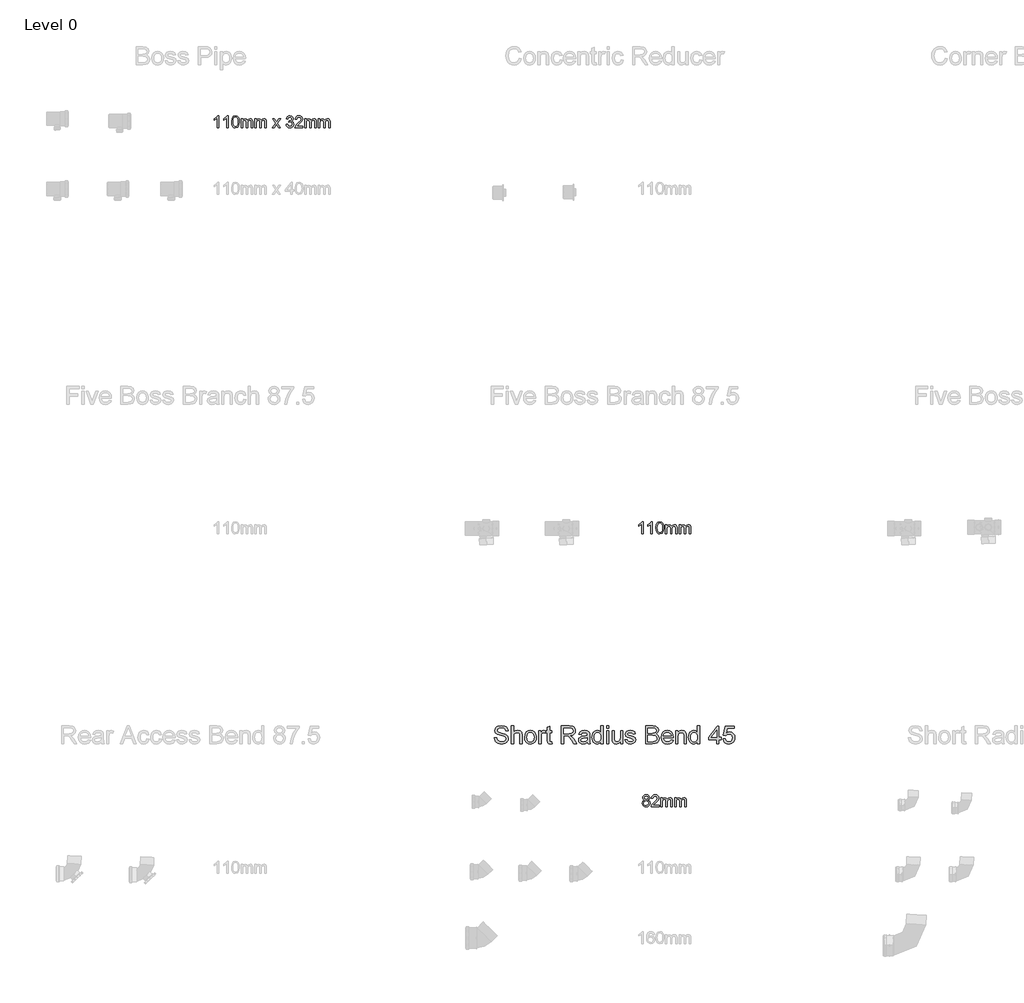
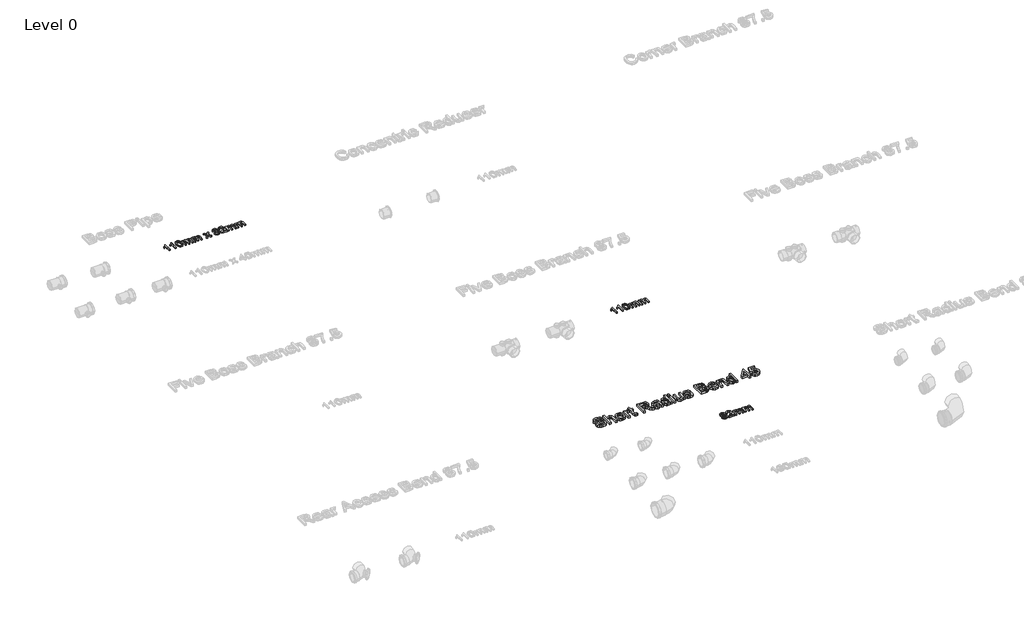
# One storey, part 14 of 23: 4 proxies.
"""IFC4 building model written with IfcOpenShell, lengths in millimetres."""

from ifc_helpers import new_model, si_unit, origin, origin_with_axes, place, context, project, spatial, polyline, outline, extrude, element, save

model = new_model("IFC4")

# Units and contexts
model_context = context("Model", 3, world=origin())
ifc_project = project(units=[si_unit("LENGTHUNIT", "METRE", prefix="MILLI")], contexts=[model_context])

# Site, building, storey
site = spatial("IfcSite", under=ifc_project)
building = spatial("IfcBuilding", under=site)
storey = spatial("IfcBuildingStorey", under=building, Name="Level 0", Elevation=0.0)

# Proxies
placement = place(None, origin())
element("IfcBuildingElementProxy", 1, Name="100mm Arial", ObjectType="100mm Arial", at=placement, inside=storey, context=model_context, shape_type="SweptSolid", body=[
    extrude(outline(polyline([(-10291.7293188, 5986.6504048), (-10304.0370111, 5986.6504048), (-10304.0370111, 6063.381174), (-10315.6956649, 6055.0758856), (-10328.6523957, 6048.8619433), (-10328.6523957, 6060.4965587), (-10310.6115303, 6072.0109817), (-10299.6620111, 6085.1119433), (-10291.7293188, 6085.1119433), (-10291.7293188, 5986.6504048)])), origin_with_axes(), (0.0, 0.0, 1.0), 15.0),
    extrude(outline(polyline([(-10216.3447034, 5986.6504048), (-10228.6523957, 5986.6504048), (-10228.6523957, 6063.381174), (-10240.3110495, 6055.0758856), (-10253.2677803, 6048.8619433), (-10253.2677803, 6060.4965587), (-10235.2269149, 6072.0109817), (-10224.2773957, 6085.1119433), (-10216.3447034, 6085.1119433), (-10216.3447034, 5986.6504048)])), origin_with_axes(), (0.0, 0.0, 1.0), 15.0),
    extrude(outline(polyline([(-10187.1139341, 6035.0879048), (-10183.4961457, 6063.4172317), (-10172.7509534, 6079.7513663), (-10154.8062418, 6085.1119433), (-10140.4312418, 6081.9388663), (-10130.5033572, 6072.7922317), (-10124.7341264, 6058.224924), (-10122.4985495, 6035.0879048), (-10126.0802803, 6006.8787702), (-10136.7894149, 5990.5085779), (-10154.8062418, 5985.1119433), (-10167.5947034, 5987.4556933), (-10177.3062418, 5994.4869433), (-10184.6620111, 6011.1395875), (-10187.1139341, 6035.0879048)]), holes=[polyline([(-10174.8062418, 6035.1119433), (-10173.3639341, 6015.7519673), (-10169.0370111, 6004.5470394), (-10162.5947034, 5999.2014865), (-10154.8062418, 5997.4196356), (-10147.0177803, 5999.2074962), (-10140.5754726, 6004.5710779), (-10136.2485495, 6015.7820154), (-10134.8062418, 6035.1119433), (-10136.2004726, 6054.0362221), (-10140.3831649, 6065.3282894), (-10146.8134534, 6070.9352606), (-10154.9504726, 6072.804251), (-10162.6547995, 6071.1576163), (-10168.8447034, 6066.2177125), (-10173.3158572, 6054.2225202), (-10174.8062418, 6035.1119433)])]), origin_with_axes(), (0.0, 0.0, 1.0), 15.0),
    extrude(outline(polyline([(-10108.6523957, 5986.6504048), (-10108.6523957, 6058.9580971), (-10096.3447034, 6058.9580971), (-10096.3447034, 6047.0590587), (-10087.8831649, 6056.8066548), (-10075.8398957, 6060.4965587), (-10063.5081649, 6056.7345394), (-10056.7293188, 6046.193674), (-10047.1259534, 6056.9208375), (-10034.9985495, 6060.4965587), (-10025.7467466, 6059.0091788), (-10018.9047995, 6054.5470394), (-10014.6770351, 6046.9899481), (-10013.2677803, 6036.2177125), (-10013.2677803, 5986.6504048), (-10025.5754726, 5986.6504048), (-10025.5754726, 6030.929251), (-10026.7172995, 6041.2056933), (-10030.8519149, 6046.2657894), (-10037.8831649, 6048.1888663), (-10049.9865303, 6043.2609817), (-10054.8062418, 6027.4677125), (-10054.8062418, 5986.6504048), (-10067.1139341, 5986.6504048), (-10067.1139341, 6032.2994433), (-10069.9624918, 6044.2225202), (-10079.3014341, 6048.1888663), (-10088.4120111, 6045.5446356), (-10094.4697034, 6037.804251), (-10096.3447034, 6023.116751), (-10096.3447034, 5986.6504048), (-10108.6523957, 5986.6504048)])), origin_with_axes(), (0.0, 0.0, 1.0), 15.0),
    extrude(outline(polyline([(-9994.8062418, 5986.6504048), (-9994.8062418, 6058.9580971), (-9982.4985495, 6058.9580971), (-9982.4985495, 6047.0590587), (-9974.0370111, 6056.8066548), (-9961.9937418, 6060.4965587), (-9949.6620111, 6056.7345394), (-9942.8831649, 6046.193674), (-9933.2797995, 6056.9208375), (-9921.1523957, 6060.4965587), (-9911.9005928, 6059.0091788), (-9905.0586457, 6054.5470394), (-9900.8308813, 6046.9899481), (-9899.4216264, 6036.2177125), (-9899.4216264, 5986.6504048), (-9911.7293188, 5986.6504048), (-9911.7293188, 6030.929251), (-9912.8711457, 6041.2056933), (-9917.0057611, 6046.2657894), (-9924.0370111, 6048.1888663), (-9936.1403764, 6043.2609817), (-9940.960088, 6027.4677125), (-9940.960088, 5986.6504048), (-9953.2677803, 5986.6504048), (-9953.2677803, 6032.2994433), (-9956.116338, 6044.2225202), (-9965.4552803, 6048.1888663), (-9974.5658572, 6045.5446356), (-9980.6235495, 6037.804251), (-9982.4985495, 6023.116751), (-9982.4985495, 5986.6504048), (-9994.8062418, 5986.6504048)])), origin_with_axes(), (0.0, 0.0, 1.0), 15.0),
    extrude(outline(polyline([(-9850.1908572, 5986.6504048), (-9823.8927803, 6022.9965587), (-9848.6523957, 6058.9580971), (-9833.8447034, 6058.9580971), (-9821.897588, 6041.6504048), (-9816.3206649, 6033.4773279), (-9811.4889341, 6040.1600202), (-9797.8831649, 6058.9580971), (-9783.0754726, 6058.9580971), (-9809.085088, 6022.9965587), (-9784.0370111, 5986.6504048), (-9798.8447034, 5986.6504048), (-9813.9168188, 6008.5013663), (-9816.6812418, 6012.491751), (-9835.3831649, 5986.6504048), (-9850.1908572, 5986.6504048)])), origin_with_axes(), (0.0, 0.0, 1.0), 15.0),
    extrude(outline(polyline([(-9737.8831649, 6012.804251), (-9725.5754726, 6014.3427125), (-9718.7846072, 6001.3859817), (-9706.0802803, 5997.4196356), (-9697.6427803, 5998.7838183), (-9691.1283572, 6002.8763663), (-9685.5754726, 6016.3859817), (-9691.0802803, 6029.1143471), (-9705.0706649, 6034.1504048), (-9713.7004726, 6032.804251), (-9712.3302803, 6045.1119433), (-9710.3591264, 6044.9677125), (-9696.3927803, 6048.5013663), (-9691.741338, 6052.9845394), (-9690.1908572, 6059.366751), (-9694.6860495, 6068.9941548), (-9706.272588, 6072.804251), (-9718.0033572, 6068.9580971), (-9724.0370111, 6057.4196356), (-9736.3447034, 6058.9580971), (-9732.7209053, 6070.0097798), (-9726.272588, 6078.2609817), (-9717.4504726, 6083.3992029), (-9706.7052803, 6085.1119433), (-9691.8615303, 6081.7345394), (-9681.4769149, 6072.5037702), (-9677.8831649, 6060.0879048), (-9681.2966264, 6048.741751), (-9691.3927803, 6040.5927125), (-9677.9793188, 6032.179251), (-9673.2677803, 6016.1696356), (-9675.6235495, 6004.1744433), (-9682.6908572, 5994.1504048), (-9693.3579245, 5987.3715587), (-9706.5129726, 5985.1119433), (-9718.4120111, 5987.0410298), (-9728.0995111, 5992.8282894), (-9734.8362899, 6001.6804529), (-9737.8831649, 6012.804251)])), origin_with_axes(), (0.0, 0.0, 1.0), 15.0),
    extrude(outline(polyline([(-9599.4216264, 5998.9580971), (-9599.4216264, 5986.6504048), (-9664.0370111, 5986.6504048), (-9662.7148957, 5995.1359817), (-9655.2389341, 6008.2008856), (-9639.8302803, 6022.4677125), (-9618.5802803, 6042.9725202), (-9613.2677803, 6056.9148279), (-9618.2797995, 6068.2008856), (-9631.3687418, 6072.804251), (-9645.0105688, 6068.3090587), (-9650.1908572, 6055.881174), (-9662.4985495, 6057.4196356), (-9659.5147755, 6069.3246837), (-9653.0634534, 6078.0205971), (-9643.4811216, 6083.3391067), (-9631.1043188, 6085.1119433), (-9618.6373716, 6083.1407894), (-9609.0730688, 6077.2273279), (-9602.9883332, 6068.3931933), (-9600.960088, 6057.6600202), (-9603.147588, 6045.9893471), (-9610.4192226, 6033.9220394), (-9628.0514341, 6017.0590587), (-9642.210088, 6005.2201163), (-9647.7629726, 5998.9580971), (-9599.4216264, 5998.9580971)])), origin_with_axes(), (0.0, 0.0, 1.0), 15.0),
    extrude(outline(polyline([(-9584.0370111, 5986.6504048), (-9584.0370111, 6058.9580971), (-9571.7293188, 6058.9580971), (-9571.7293188, 6047.0590587), (-9563.2677803, 6056.8066548), (-9551.2245111, 6060.4965587), (-9538.8927803, 6056.7345394), (-9532.1139341, 6046.193674), (-9522.5105688, 6056.9208375), (-9510.3831649, 6060.4965587), (-9501.131362, 6059.0091788), (-9494.2894149, 6054.5470394), (-9490.0616505, 6046.9899481), (-9488.6523957, 6036.2177125), (-9488.6523957, 5986.6504048), (-9500.960088, 5986.6504048), (-9500.960088, 6030.929251), (-9502.1019149, 6041.2056933), (-9506.2365303, 6046.2657894), (-9513.2677803, 6048.1888663), (-9525.3711457, 6043.2609817), (-9530.1908572, 6027.4677125), (-9530.1908572, 5986.6504048), (-9542.4985495, 5986.6504048), (-9542.4985495, 6032.2994433), (-9545.3471072, 6044.2225202), (-9554.6860495, 6048.1888663), (-9563.7966264, 6045.5446356), (-9569.8543188, 6037.804251), (-9571.7293188, 6023.116751), (-9571.7293188, 5986.6504048), (-9584.0370111, 5986.6504048)])), origin_with_axes(), (0.0, 0.0, 1.0), 15.0),
    extrude(outline(polyline([(-9470.1908572, 5986.6504048), (-9470.1908572, 6058.9580971), (-9457.8831649, 6058.9580971), (-9457.8831649, 6047.0590587), (-9449.4216264, 6056.8066548), (-9437.3783572, 6060.4965587), (-9425.0466264, 6056.7345394), (-9418.2677803, 6046.193674), (-9408.6644149, 6056.9208375), (-9396.5370111, 6060.4965587), (-9387.2852082, 6059.0091788), (-9380.4432611, 6054.5470394), (-9376.2154966, 6046.9899481), (-9374.8062418, 6036.2177125), (-9374.8062418, 5986.6504048), (-9387.1139341, 5986.6504048), (-9387.1139341, 6030.929251), (-9388.2557611, 6041.2056933), (-9392.3903764, 6046.2657894), (-9399.4216264, 6048.1888663), (-9411.5249918, 6043.2609817), (-9416.3447034, 6027.4677125), (-9416.3447034, 5986.6504048), (-9428.6523957, 5986.6504048), (-9428.6523957, 6032.2994433), (-9431.5009534, 6044.2225202), (-9440.8398957, 6048.1888663), (-9449.9504726, 6045.5446356), (-9456.0081649, 6037.804251), (-9457.8831649, 6023.116751), (-9457.8831649, 5986.6504048), (-9470.1908572, 5986.6504048)])), origin_with_axes(), (0.0, 0.0, 1.0), 15.0),
])
element("IfcBuildingElementProxy", 2, Name="100mm Arial", ObjectType="100mm Arial", at=placement, inside=storey, context=model_context, shape_type="SweptSolid", body=[
    extrude(outline(polyline([(-6791.7293188, 2637.7167304), (-6804.0370111, 2637.7167304), (-6804.0370111, 2714.4474996), (-6815.6956649, 2706.1422111), (-6828.6523957, 2699.9282688), (-6828.6523957, 2711.5628842), (-6810.6115303, 2723.0773073), (-6799.6620111, 2736.1782688), (-6791.7293188, 2736.1782688), (-6791.7293188, 2637.7167304)])), origin_with_axes(), (0.0, 0.0, 1.0), 15.0),
    extrude(outline(polyline([(-6716.3447034, 2637.7167304), (-6728.6523957, 2637.7167304), (-6728.6523957, 2714.4474996), (-6740.3110495, 2706.1422111), (-6753.2677803, 2699.9282688), (-6753.2677803, 2711.5628842), (-6735.2269149, 2723.0773073), (-6724.2773957, 2736.1782688), (-6716.3447034, 2736.1782688), (-6716.3447034, 2637.7167304)])), origin_with_axes(), (0.0, 0.0, 1.0), 15.0),
    extrude(outline(polyline([(-6687.1139341, 2686.1542304), (-6683.4961457, 2714.4835573), (-6672.7509534, 2730.8176919), (-6654.8062418, 2736.1782688), (-6640.4312418, 2733.0051919), (-6630.5033572, 2723.8585573), (-6624.7341264, 2709.2912496), (-6622.4985495, 2686.1542304), (-6626.0802803, 2657.9450958), (-6636.7894149, 2641.5749035), (-6654.8062418, 2636.1782688), (-6667.5947034, 2638.5220188), (-6677.3062418, 2645.5532688), (-6684.6620111, 2662.2059131), (-6687.1139341, 2686.1542304)]), holes=[polyline([(-6674.8062418, 2686.1782688), (-6673.3639341, 2666.8182929), (-6669.0370111, 2655.613365), (-6662.5947034, 2650.2678121), (-6654.8062418, 2648.4859611), (-6647.0177803, 2650.2738217), (-6640.5754726, 2655.6374035), (-6636.2485495, 2666.848341), (-6634.8062418, 2686.1782688), (-6636.2004726, 2705.1025477), (-6640.3831649, 2716.394615), (-6646.8134534, 2722.0015861), (-6654.9504726, 2723.8705765), (-6662.6547995, 2722.2239419), (-6668.8447034, 2717.2840381), (-6673.3158572, 2705.2888458), (-6674.8062418, 2686.1782688)])]), origin_with_axes(), (0.0, 0.0, 1.0), 15.0),
    extrude(outline(polyline([(-6608.6523957, 2637.7167304), (-6608.6523957, 2710.0244227), (-6596.3447034, 2710.0244227), (-6596.3447034, 2698.1253842), (-6587.8831649, 2707.8729804), (-6575.8398957, 2711.5628842), (-6563.5081649, 2707.800865), (-6556.7293188, 2697.2599996), (-6547.1259534, 2707.9871631), (-6534.9985495, 2711.5628842), (-6525.7467466, 2710.0755044), (-6518.9047995, 2705.613365), (-6514.6770351, 2698.0562736), (-6513.2677803, 2687.2840381), (-6513.2677803, 2637.7167304), (-6525.5754726, 2637.7167304), (-6525.5754726, 2681.9955765), (-6526.7172995, 2692.2720188), (-6530.8519149, 2697.332115), (-6537.8831649, 2699.2551919), (-6549.9865303, 2694.3273073), (-6554.8062418, 2678.5340381), (-6554.8062418, 2637.7167304), (-6567.1139341, 2637.7167304), (-6567.1139341, 2683.3657688), (-6569.9624918, 2695.2888458), (-6579.3014341, 2699.2551919), (-6588.4120111, 2696.6109611), (-6594.4697034, 2688.8705765), (-6596.3447034, 2674.1830765), (-6596.3447034, 2637.7167304), (-6608.6523957, 2637.7167304)])), origin_with_axes(), (0.0, 0.0, 1.0), 15.0),
    extrude(outline(polyline([(-6494.8062418, 2637.7167304), (-6494.8062418, 2710.0244227), (-6482.4985495, 2710.0244227), (-6482.4985495, 2698.1253842), (-6474.0370111, 2707.8729804), (-6461.9937418, 2711.5628842), (-6449.6620111, 2707.800865), (-6442.8831649, 2697.2599996), (-6433.2797995, 2707.9871631), (-6421.1523957, 2711.5628842), (-6411.9005928, 2710.0755044), (-6405.0586457, 2705.613365), (-6400.8308813, 2698.0562736), (-6399.4216264, 2687.2840381), (-6399.4216264, 2637.7167304), (-6411.7293188, 2637.7167304), (-6411.7293188, 2681.9955765), (-6412.8711457, 2692.2720188), (-6417.0057611, 2697.332115), (-6424.0370111, 2699.2551919), (-6436.1403764, 2694.3273073), (-6440.960088, 2678.5340381), (-6440.960088, 2637.7167304), (-6453.2677803, 2637.7167304), (-6453.2677803, 2683.3657688), (-6456.116338, 2695.2888458), (-6465.4552803, 2699.2551919), (-6474.5658572, 2696.6109611), (-6480.6235495, 2688.8705765), (-6482.4985495, 2674.1830765), (-6482.4985495, 2637.7167304), (-6494.8062418, 2637.7167304)])), origin_with_axes(), (0.0, 0.0, 1.0), 15.0),
])
element("IfcBuildingElementProxy", 3, Name="100mm Arial", ObjectType="100mm Arial", at=placement, inside=storey, context=model_context, shape_type="SweptSolid", body=[
    extrude(outline(polyline([(-6782.2581649, 440.881174), (-6793.4721072, 448.5254048), (-6797.1139341, 460.4244433), (-6795.1307611, 470.0458375), (-6789.1812418, 477.9965587), (-6779.9324438, 483.3330971), (-6768.0514341, 485.1119433), (-6756.0983091, 483.2910298), (-6746.7293188, 477.8282894), (-6740.6716264, 469.7513663), (-6738.6523957, 460.0879048), (-6742.2461457, 448.4893471), (-6753.147588, 440.881174), (-6740.0586457, 431.2297317), (-6735.5754726, 415.304251), (-6737.7990303, 403.537424), (-6744.4697034, 393.8138663), (-6754.7701841, 387.287424), (-6767.8831649, 385.1119433), (-6780.9961457, 387.2964385), (-6791.2966264, 393.849924), (-6797.9672995, 403.6666308), (-6800.1908572, 415.6407894), (-6795.5273957, 431.9388663), (-6782.2581649, 440.881174)]), holes=[polyline([(-6784.8062418, 460.0638663), (-6780.4432611, 450.4004048), (-6767.7389341, 446.6504048), (-6755.2870111, 450.3763663), (-6750.960088, 459.5109817), (-6755.4312418, 468.9701163), (-6767.8831649, 472.804251), (-6780.3711457, 469.054251), (-6784.8062418, 460.0638663)]), polyline([(-6787.8831649, 416.0734817), (-6785.8278764, 406.8066548), (-6778.5562418, 399.8715587), (-6767.7870111, 397.4196356), (-6753.1235495, 402.5758856), (-6747.8831649, 415.6888663), (-6753.2918188, 429.054251), (-6759.7221072, 433.0205971), (-6768.1956649, 434.3427125), (-6782.678838, 429.1263663), (-6787.8831649, 416.0734817)])]), origin_with_axes(), (0.0, 0.0, 1.0), 15.0),
    extrude(outline(polyline([(-6661.7293188, 398.9580971), (-6661.7293188, 386.6504048), (-6726.3447034, 386.6504048), (-6725.022588, 395.1359817), (-6717.5466264, 408.2008856), (-6702.1379726, 422.4677125), (-6680.8879726, 442.9725202), (-6675.5754726, 456.9148279), (-6680.5874918, 468.2008856), (-6693.6764341, 472.804251), (-6707.3182611, 468.3090587), (-6712.4985495, 455.881174), (-6724.8062418, 457.4196356), (-6721.8224678, 469.3246837), (-6715.3711457, 478.0205971), (-6705.7888139, 483.3391067), (-6693.4120111, 485.1119433), (-6680.9450639, 483.1407894), (-6671.3807611, 477.2273279), (-6665.2960255, 468.3931933), (-6663.2677803, 457.6600202), (-6665.4552803, 445.9893471), (-6672.7269149, 433.9220394), (-6690.3591264, 417.0590587), (-6704.5177803, 405.2201163), (-6710.0706649, 398.9580971), (-6661.7293188, 398.9580971)])), origin_with_axes(), (0.0, 0.0, 1.0), 15.0),
    extrude(outline(polyline([(-6646.3447034, 386.6504048), (-6646.3447034, 458.9580971), (-6634.0370111, 458.9580971), (-6634.0370111, 447.0590587), (-6625.5754726, 456.8066548), (-6613.5322034, 460.4965587), (-6601.2004726, 456.7345394), (-6594.4216264, 446.193674), (-6584.8182611, 456.9208375), (-6572.6908572, 460.4965587), (-6563.4390543, 459.0091788), (-6556.5971072, 454.5470394), (-6552.3693428, 446.9899481), (-6550.960088, 436.2177125), (-6550.960088, 386.6504048), (-6563.2677803, 386.6504048), (-6563.2677803, 430.929251), (-6564.4096072, 441.2056933), (-6568.5442226, 446.2657894), (-6575.5754726, 448.1888663), (-6587.678838, 443.2609817), (-6592.4985495, 427.4677125), (-6592.4985495, 386.6504048), (-6604.8062418, 386.6504048), (-6604.8062418, 432.2994433), (-6607.6547995, 444.2225202), (-6616.9937418, 448.1888663), (-6626.1043188, 445.5446356), (-6632.1620111, 437.804251), (-6634.0370111, 423.116751), (-6634.0370111, 386.6504048), (-6646.3447034, 386.6504048)])), origin_with_axes(), (0.0, 0.0, 1.0), 15.0),
    extrude(outline(polyline([(-6532.4985495, 386.6504048), (-6532.4985495, 458.9580971), (-6520.1908572, 458.9580971), (-6520.1908572, 447.0590587), (-6511.7293188, 456.8066548), (-6499.6860495, 460.4965587), (-6487.3543188, 456.7345394), (-6480.5754726, 446.193674), (-6470.9721072, 456.9208375), (-6458.8447034, 460.4965587), (-6449.5929005, 459.0091788), (-6442.7509534, 454.5470394), (-6438.5231889, 446.9899481), (-6437.1139341, 436.2177125), (-6437.1139341, 386.6504048), (-6449.4216264, 386.6504048), (-6449.4216264, 430.929251), (-6450.5634534, 441.2056933), (-6454.6980688, 446.2657894), (-6461.7293188, 448.1888663), (-6473.8326841, 443.2609817), (-6478.6523957, 427.4677125), (-6478.6523957, 386.6504048), (-6490.960088, 386.6504048), (-6490.960088, 432.2994433), (-6493.8086457, 444.2225202), (-6503.147588, 448.1888663), (-6512.2581649, 445.5446356), (-6518.3158572, 437.804251), (-6520.1908572, 423.116751), (-6520.1908572, 386.6504048), (-6532.4985495, 386.6504048)])), origin_with_axes(), (0.0, 0.0, 1.0), 15.0),
])
element("IfcBuildingElementProxy", 4, Name="150mm Arial", ObjectType="150mm Arial", at=placement, inside=storey, context=model_context, shape_type="SweptSolid", body=[
    extrude(outline(polyline([(-8020.2202973, 955.9837527), (-8001.7587589, 955.9837527), (-7995.8092397, 937.5041854), (-7981.2779897, 925.8214931), (-7959.1385666, 921.3683681), (-7939.8477012, 924.7397623), (-7927.3897685, 934.0065892), (-7923.2972204, 946.3924065), (-7926.3621243, 957.9128392), (-7938.9102012, 966.2962527), (-7965.7912108, 973.3455315), (-7994.7275089, 982.4500988), (-8010.4306339, 996.1880796), (-8015.6049127, 1014.541445), (-8014.0048526, 1025.3542455), (-8009.2046723, 1035.4368777), (-8001.3305738, 1043.9825508), (-7990.5087589, 1050.1844738), (-7963.1409704, 1055.2145219), (-7933.9342397, 1049.9500988), (-7922.7383262, 1043.4506998), (-7914.4630858, 1034.4813488), (-7909.225706, 1023.6009402), (-7907.1433743, 1011.3683681), (-7925.6049127, 1011.3683681), (-7928.9943358, 1022.3839931), (-7936.0616435, 1030.3347142), (-7947.1043118, 1035.1484161), (-7962.4198166, 1036.7529835), (-7978.0958983, 1035.166445), (-7988.850105, 1030.4068296), (-7995.070057, 1023.4026229), (-7997.1433743, 1015.0823104), (-7995.6740233, 1007.9879594), (-7991.2659704, 1002.2818296), (-7961.1217397, 991.9693296), (-7928.4534704, 982.7025027), (-7917.9291315, 976.0047863), (-7910.5868839, 967.7385604), (-7904.835682, 946.8611565), (-7906.4898286, 935.4804474), (-7911.4522685, 924.77582), (-7919.5201772, 915.5630796), (-7930.49073, 908.6580315), (-7958.4174127, 902.9068296), (-7976.5048526, 904.4573104), (-7991.3921723, 909.1087527), (-8003.2506459, 916.8791854), (-8012.2515473, 927.7866373), (-8018.0297925, 941.0738969), (-8020.2202973, 955.9837527)])), origin_with_axes(), (0.0, 0.0, 1.0), 25.0),
    extrude(outline(polyline([(-7879.4510666, 905.2145219), (-7879.4510666, 1052.9068296), (-7860.9895281, 1052.9068296), (-7860.9895281, 998.603945), (-7846.5934945, 1011.6388008), (-7828.8621243, 1015.9837527), (-7808.1289512, 1011.2421661), (-7795.5448166, 998.135195), (-7791.7587589, 973.8683681), (-7791.7587589, 905.2145219), (-7810.2202973, 905.2145219), (-7810.2202973, 971.9573104), (-7811.6896483, 983.5138008), (-7816.0977012, 991.4284642), (-7823.2010666, 995.9987767), (-7832.756355, 997.5222142), (-7847.882557, 993.4116373), (-7857.9787108, 982.2698104), (-7860.9895281, 962.8347142), (-7860.9895281, 905.2145219), (-7879.4510666, 905.2145219)])), origin_with_axes(), (0.0, 0.0, 1.0), 25.0),
    extrude(outline(polyline([(-7770.9895281, 959.4452911), (-7766.9961387, 985.5961325), (-7755.0159704, 1003.9765411), (-7740.2142877, 1012.9819498), (-7722.491932, 1015.9837527), (-7703.0974007, 1012.3284041), (-7687.6061147, 1001.3623585), (-7677.4513671, 983.9510003), (-7674.0664512, 960.9597142), (-7675.5628454, 942.3088729), (-7680.0520281, 928.1111565), (-7687.4032901, 917.4786445), (-7697.4859223, 909.5234161), (-7709.4615834, 904.5609762), (-7722.491932, 902.9068296), (-7742.1208382, 906.5486565), (-7757.5940954, 917.4741373), (-7767.6406699, 935.2505796), (-7770.9895281, 959.4452911)]), holes=[polyline([(-7752.5279897, 959.4813488), (-7750.3915714, 942.7731157), (-7743.9823166, 930.86957), (-7734.3368839, 923.7436686), (-7722.491932, 921.3683681), (-7710.7010666, 923.7571902), (-7701.0736627, 930.9236565), (-7694.6644079, 942.9849546), (-7692.5279897, 960.0582719), (-7694.6779296, 976.2797262), (-7701.1277493, 988.0210123), (-7710.7686747, 995.1469137), (-7722.491932, 997.5222142), (-7734.3368839, 995.1559282), (-7743.9823166, 988.05707), (-7750.3915714, 976.1805676), (-7752.5279897, 959.4813488)])]), origin_with_axes(), (0.0, 0.0, 1.0), 25.0),
    extrude(outline(polyline([(-7653.2972204, 905.2145219), (-7653.2972204, 1013.6760604), (-7637.1433743, 1013.6760604), (-7637.1433743, 997.6303873), (-7625.6770281, 1012.4140411), (-7614.1385666, 1015.9837527), (-7595.6049127, 1010.2866373), (-7601.7707781, 993.7361565), (-7614.7515473, 997.5222142), (-7625.1902493, 993.8803873), (-7631.8428935, 983.7842335), (-7634.835682, 962.2217335), (-7634.835682, 905.2145219), (-7653.2972204, 905.2145219)])), origin_with_axes(), (0.0, 0.0, 1.0), 25.0),
    extrude(outline(polyline([(-7544.835682, 920.6111565), (-7542.5279897, 904.6736565), (-7556.3380858, 902.9068296), (-7571.8068358, 905.9717335), (-7579.523182, 914.0125988), (-7581.7587589, 934.9621181), (-7581.7587589, 995.2145219), (-7595.6049127, 995.2145219), (-7595.6049127, 1013.6760604), (-7581.7587589, 1013.6760604), (-7581.7587589, 1040.0342335), (-7563.2972204, 1050.8875988), (-7563.2972204, 1013.6760604), (-7544.835682, 1013.6760604), (-7544.835682, 995.2145219), (-7563.2972204, 995.2145219), (-7563.2972204, 935.5029835), (-7562.3236627, 925.9837527), (-7559.1686147, 922.6123585), (-7552.8765473, 921.3683681), (-7544.835682, 920.6111565)])), origin_with_axes(), (0.0, 0.0, 1.0), 25.0),
    extrude(outline(polyline([(-7466.3741435, 905.2145219), (-7466.3741435, 1052.9068296), (-7402.7323166, 1052.9068296), (-7373.1830377, 1048.9224546), (-7364.0874848, 1043.4056277), (-7357.0291916, 1034.8238969), (-7352.499444, 1024.1823705), (-7350.9895281, 1012.4861565), (-7353.4910305, 997.9368777), (-7360.9955377, 985.8755796), (-7373.7284103, 977.0324306), (-7391.9150089, 972.1375988), (-7381.4222204, 964.2409642), (-7366.4582781, 945.2385604), (-7341.8308743, 905.2145219), (-7363.2852012, 905.2145219), (-7382.5039512, 935.8275027), (-7396.3861627, 956.0919258), (-7406.1397685, 965.6652431), (-7414.9198166, 969.1808681), (-7425.6289512, 969.8299065), (-7447.912605, 969.8299065), (-7447.912605, 905.2145219), (-7466.3741435, 905.2145219)]), holes=[polyline([(-7447.912605, 988.291445), (-7406.5904897, 988.291445), (-7385.5147685, 990.9056277), (-7373.5436147, 999.2710123), (-7369.4510666, 1011.8010604), (-7371.4026892, 1020.806469), (-7377.257557, 1028.0630796), (-7387.3311747, 1032.8497383), (-7401.9390473, 1034.4452911), (-7447.912605, 1034.4452911), (-7447.912605, 988.291445)])]), origin_with_axes(), (0.0, 0.0, 1.0), 25.0),
    extrude(outline(polyline([(-7251.7587589, 919.0606758), (-7269.6614031, 906.5486565), (-7289.4390473, 902.9068296), (-7304.8672324, 905.0973344), (-7316.2479416, 911.6688488), (-7323.2656699, 921.6478152), (-7325.6049127, 934.0606758), (-7322.0712589, 948.6640411), (-7312.7864031, 959.2650027), (-7299.8597204, 965.322695), (-7283.8861627, 968.0991373), (-7251.866932, 974.4452911), (-7251.7587589, 978.5558681), (-7253.0297925, 986.7950508), (-7256.8428935, 992.1856758), (-7265.3705377, 996.1880796), (-7277.2515473, 997.5222142), (-7295.929432, 993.9705315), (-7304.835682, 981.3683681), (-7323.2972204, 983.6760604), (-7315.3104416, 1001.7049065), (-7299.2287108, 1012.2698104), (-7274.8717397, 1015.9837527), (-7252.4979416, 1012.7025027), (-7239.8597204, 1004.46332), (-7234.1986627, 991.9332719), (-7233.2972204, 975.7794258), (-7233.2972204, 952.8106758), (-7232.3597204, 920.7373585), (-7228.6818358, 905.2145219), (-7247.1433743, 905.2145219), (-7251.7587589, 919.0606758)]), holes=[polyline([(-7251.7587589, 955.9837527), (-7281.5424127, 950.322695), (-7297.4258262, 947.3299065), (-7304.6193358, 942.4621181), (-7307.1433743, 935.3587527), (-7301.6445762, 925.3707719), (-7285.5087589, 921.3683681), (-7266.8308743, 925.7854354), (-7254.787605, 936.4765411), (-7251.866932, 950.7553873), (-7251.7587589, 955.9837527)])]), origin_with_axes(), (0.0, 0.0, 1.0), 25.0),
    extrude(outline(polyline([(-7140.9895281, 905.2145219), (-7140.9895281, 922.6303873), (-7153.2040714, 907.837719), (-7170.0880858, 902.9068296), (-7182.023182, 904.6916854), (-7192.9486627, 910.0462527), (-7202.1974608, 918.596433), (-7209.1025089, 929.9681277), (-7213.4023887, 943.7016012), (-7214.835682, 959.3371181), (-7209.55323, 988.7241373), (-7202.9546723, 1000.3797863), (-7193.7239031, 1008.9525027), (-7182.5595401, 1014.2259402), (-7170.1602012, 1015.9837527), (-7153.1409704, 1010.9537046), (-7140.9895281, 997.8827911), (-7140.9895281, 1052.9068296), (-7122.5279897, 1052.9068296), (-7122.5279897, 905.2145219), (-7140.9895281, 905.2145219)]), holes=[polyline([(-7196.3741435, 959.4092335), (-7194.2918118, 942.7100147), (-7188.0448166, 930.8335123), (-7178.9672925, 923.7346541), (-7168.3933743, 921.3683681), (-7157.8239632, 923.6264811), (-7148.976307, 930.40082), (-7142.9862228, 941.8175868), (-7140.9895281, 958.0029835), (-7143.0222805, 975.698296), (-7149.1205377, 987.9669258), (-7158.1935546, 995.1333921), (-7169.1505858, 997.5222142), (-7179.8326772, 995.2280436), (-7188.585682, 988.3455315), (-7194.4270281, 976.5231157), (-7196.3741435, 959.4092335)])]), origin_with_axes(), (0.0, 0.0, 1.0), 25.0),
    extrude(outline(polyline([(-7094.835682, 1034.4452911), (-7094.835682, 1052.9068296), (-7076.3741435, 1052.9068296), (-7076.3741435, 1034.4452911), (-7094.835682, 1034.4452911)])), origin_with_axes(), (0.0, 0.0, 1.0), 25.0),
    extrude(outline(polyline([(-7094.835682, 905.2145219), (-7094.835682, 1013.6760604), (-7076.3741435, 1013.6760604), (-7076.3741435, 905.2145219), (-7094.835682, 905.2145219)])), origin_with_axes(), (0.0, 0.0, 1.0), 25.0),
    extrude(outline(polyline([(-6979.4510666, 905.2145219), (-6979.4510666, 923.8563488), (-6993.9102012, 908.1442094), (-7012.7683743, 902.9068296), (-7030.1301531, 906.5847142), (-7042.101307, 915.8154835), (-7047.600105, 929.4092335), (-7048.6818358, 946.572695), (-7048.6818358, 1013.6760604), (-7030.2202973, 1013.6760604), (-7030.2202973, 955.2625988), (-7029.1025089, 936.4404835), (-7021.8008262, 925.3888008), (-7008.0448166, 921.3683681), (-6992.6301531, 925.478945), (-6982.443855, 936.6748585), (-6979.4510666, 957.2457719), (-6979.4510666, 1013.6760604), (-6960.9895281, 1013.6760604), (-6960.9895281, 905.2145219), (-6979.4510666, 905.2145219)])), origin_with_axes(), (0.0, 0.0, 1.0), 25.0),
    extrude(outline(polyline([(-6942.5279897, 937.5222142), (-6924.0664512, 939.8299065), (-6921.1547925, 931.9332719), (-6915.5207781, 926.1279835), (-6895.9414512, 921.3683681), (-6877.1193358, 925.7313488), (-6870.9895281, 935.9717335), (-6877.1553935, 944.2650027), (-6896.1577973, 949.5294258), (-6923.9582781, 958.5618777), (-6936.0916916, 969.1087527), (-6940.2202973, 984.0005796), (-6936.9029897, 997.7565892), (-6927.8525089, 1008.2674065), (-6916.11573, 1013.7301469), (-6900.2323166, 1015.9837527), (-6877.7683743, 1012.3599546), (-6863.4895281, 1002.5522623), (-6857.1433743, 985.9837527), (-6875.6049127, 983.6760604), (-6882.5460185, 993.8623585), (-6898.7900089, 997.5222142), (-6916.4582781, 994.0246181), (-6921.7587589, 985.8755796), (-6919.5592397, 980.5029835), (-6912.6722204, 976.4284642), (-6896.7707781, 972.4981758), (-6869.6734223, 963.8082719), (-6857.0892877, 953.9645219), (-6852.5279897, 937.9188488), (-6857.882557, 920.2505796), (-6873.3332781, 907.43207), (-6896.193855, 902.9068296), (-6914.8086387, 905.08832), (-6928.3933743, 911.6327911), (-6937.4618839, 922.4681277), (-6942.5279897, 937.5222142)])), origin_with_axes(), (0.0, 0.0, 1.0), 25.0),
    extrude(outline(polyline([(-6771.7587589, 905.2145219), (-6771.7587589, 1052.9068296), (-6715.4005858, 1052.9068296), (-6687.7984223, 1048.5618777), (-6678.522581, 1043.049558), (-6671.5003454, 1035.2025027), (-6665.6049127, 1016.3082719), (-6670.5628454, 999.0546661), (-6685.5448166, 985.9837527), (-6675.0835786, 980.5210123), (-6667.3537108, 972.2097142), (-6662.5805738, 961.5997383), (-6660.9895281, 949.2409642), (-6665.33448, 929.3912046), (-6676.0977012, 915.2565892), (-6692.1614031, 907.7565892), (-6715.8332781, 905.2145219), (-6771.7587589, 905.2145219)]), holes=[polyline([(-6753.2972204, 923.6760604), (-6715.4366435, 923.6760604), (-6701.7347204, 924.3972142), (-6690.1421723, 928.4176469), (-6682.4618839, 936.6207719), (-6679.4510666, 949.0606758), (-6682.9847204, 963.4116373), (-6694.4330377, 971.9753392), (-6717.2395281, 974.4452911), (-6753.2972204, 974.4452911), (-6753.2972204, 923.6760604)]), polyline([(-6753.2972204, 992.9068296), (-6719.5832781, 992.9068296), (-6699.8957781, 994.4933681), (-6688.0508262, 1001.3263008), (-6684.0664512, 1013.3515411), (-6687.7803935, 1025.3948104), (-6698.4174127, 1032.5162046), (-6722.1433743, 1034.4452911), (-6753.2972204, 1034.4452911), (-6753.2972204, 992.9068296)])]), origin_with_axes(), (0.0, 0.0, 1.0), 25.0),
    extrude(outline(polyline([(-6561.975105, 937.5222142), (-6543.8741435, 935.2145219), (-6550.3960786, 921.5756998), (-6560.80323, 911.3803873), (-6574.8612228, 905.025219), (-6592.335682, 902.9068296), (-6613.9973406, 906.5621782), (-6630.6650089, 917.5282238), (-6641.2930137, 935.0928272), (-6644.835682, 958.5438488), (-6641.256956, 982.7836325), (-6630.5207781, 1000.9116373), (-6614.0784704, 1012.2157238), (-6593.381355, 1015.9837527), (-6573.3287709, 1012.2247383), (-6557.3056339, 1000.947695), (-6546.7993238, 982.8557479), (-6543.2972204, 958.6520219), (-6543.4053935, 953.6760604), (-6626.3741435, 953.6760604), (-6623.1785305, 939.8569498), (-6615.7551531, 929.697695), (-6605.0415113, 923.4506998), (-6591.975105, 921.3683681), (-6573.8741435, 925.2265411), (-6561.975105, 937.5222142)]), holes=[polyline([(-6626.3741435, 972.1375988), (-6561.7587589, 972.1375988), (-6564.2557541, 981.8912046), (-6569.1505858, 988.8683681), (-6579.913807, 995.3587527), (-6593.4534704, 997.5222142), (-6605.8978815, 995.7959522), (-6616.1878454, 990.6171661), (-6623.3407901, 982.5447503), (-6626.3741435, 972.1375988)])]), origin_with_axes(), (0.0, 0.0, 1.0), 25.0),
    extrude(outline(polyline([(-6524.835682, 905.2145219), (-6524.835682, 1013.6760604), (-6506.3741435, 1013.6760604), (-6506.3741435, 998.5318296), (-6492.257557, 1011.6207719), (-6472.9847204, 1015.9837527), (-6455.5508262, 1012.4681277), (-6443.6517877, 1003.2373585), (-6438.116932, 989.6616373), (-6437.1433743, 971.8130796), (-6437.1433743, 905.2145219), (-6455.6049127, 905.2145219), (-6455.6049127, 969.3250988), (-6457.7323166, 985.6592335), (-6465.2503454, 994.2950508), (-6477.9246243, 997.5222142), (-6488.7374247, 995.7103152), (-6497.9546723, 990.2746181), (-6504.2692757, 979.7728152), (-6506.3741435, 962.7625988), (-6506.3741435, 905.2145219), (-6524.835682, 905.2145219)])), origin_with_axes(), (0.0, 0.0, 1.0), 25.0),
    extrude(outline(polyline([(-6344.835682, 905.2145219), (-6344.835682, 922.6303873), (-6357.0502252, 907.837719), (-6373.9342397, 902.9068296), (-6385.8693358, 904.6916854), (-6396.7948166, 910.0462527), (-6406.0436147, 918.596433), (-6412.9486627, 929.9681277), (-6417.2485425, 943.7016012), (-6418.6818358, 959.3371181), (-6413.3993839, 988.7241373), (-6406.8008262, 1000.3797863), (-6397.570057, 1008.9525027), (-6386.405694, 1014.2259402), (-6374.006355, 1015.9837527), (-6356.9871243, 1010.9537046), (-6344.835682, 997.8827911), (-6344.835682, 1052.9068296), (-6326.3741435, 1052.9068296), (-6326.3741435, 905.2145219), (-6344.835682, 905.2145219)]), holes=[polyline([(-6400.2202973, 959.4092335), (-6398.1379656, 942.7100147), (-6391.8909704, 930.8335123), (-6382.8134464, 923.7346541), (-6372.2395281, 921.3683681), (-6361.6701171, 923.6264811), (-6352.8224608, 930.40082), (-6346.8323767, 941.8175868), (-6344.835682, 958.0029835), (-6346.8684344, 975.698296), (-6352.9666916, 987.9669258), (-6362.0397084, 995.1333921), (-6372.9967397, 997.5222142), (-6383.678831, 995.2280436), (-6392.4318358, 988.3455315), (-6398.273182, 976.5231157), (-6400.2202973, 959.4092335)])]), origin_with_axes(), (0.0, 0.0, 1.0), 25.0),
    extrude(outline(polyline([(-6185.6049127, 905.2145219), (-6185.6049127, 939.8299065), (-6252.5279897, 939.8299065), (-6252.5279897, 958.291445), (-6180.9895281, 1050.5991373), (-6167.1433743, 1050.5991373), (-6167.1433743, 958.291445), (-6148.6818358, 958.291445), (-6148.6818358, 939.8299065), (-6167.1433743, 939.8299065), (-6167.1433743, 905.2145219), (-6185.6049127, 905.2145219)]), holes=[polyline([(-6185.6049127, 958.291445), (-6185.6049127, 1015.3347142), (-6229.8116435, 958.291445), (-6185.6049127, 958.291445)])]), origin_with_axes(), (0.0, 0.0, 1.0), 25.0),
    extrude(outline(polyline([(-6132.5279897, 944.4452911), (-6114.0664512, 946.7529835), (-6110.6770281, 935.6697503), (-6104.7635666, 927.7325508), (-6096.3531098, 922.9594137), (-6085.4727012, 921.3683681), (-6072.2395281, 923.5814089), (-6062.3236627, 930.2205315), (-6056.1307541, 940.5195099), (-6054.0664512, 953.7121181), (-6056.0000449, 966.1339931), (-6061.8008262, 975.635195), (-6071.5138671, 981.665844), (-6085.1842397, 983.6760604), (-6101.3921723, 980.4669258), (-6111.7587589, 972.1375988), (-6130.2202973, 974.4452911), (-6114.0664512, 1050.5991373), (-6042.5279897, 1050.5991373), (-6042.5279897, 1032.1375988), (-6099.1385666, 1032.1375988), (-6107.0352012, 991.4645219), (-6093.8471002, 999.4693296), (-6080.0279897, 1002.1375988), (-6062.7788911, 998.8293056), (-6048.45948, 988.9044258), (-6038.8185546, 973.7782238), (-6035.6049127, 954.8659642), (-6038.4985425, 936.4044258), (-6047.179432, 920.6111565), (-6063.8020281, 907.3329113), (-6085.5448166, 902.9068296), (-6103.6773286, 905.7508801), (-6118.1229416, 914.2830315), (-6128.0252853, 927.5116974), (-6132.5279897, 944.4452911)])), origin_with_axes(), (0.0, 0.0, 1.0), 25.0),
])

save(model, "model.ifc")
